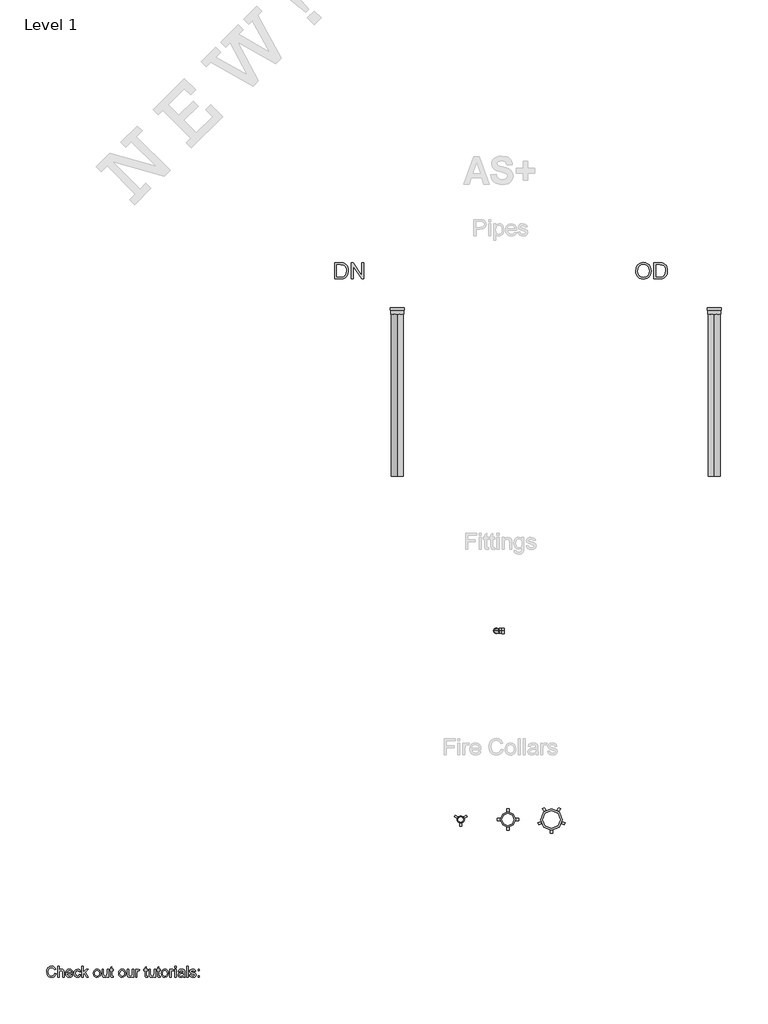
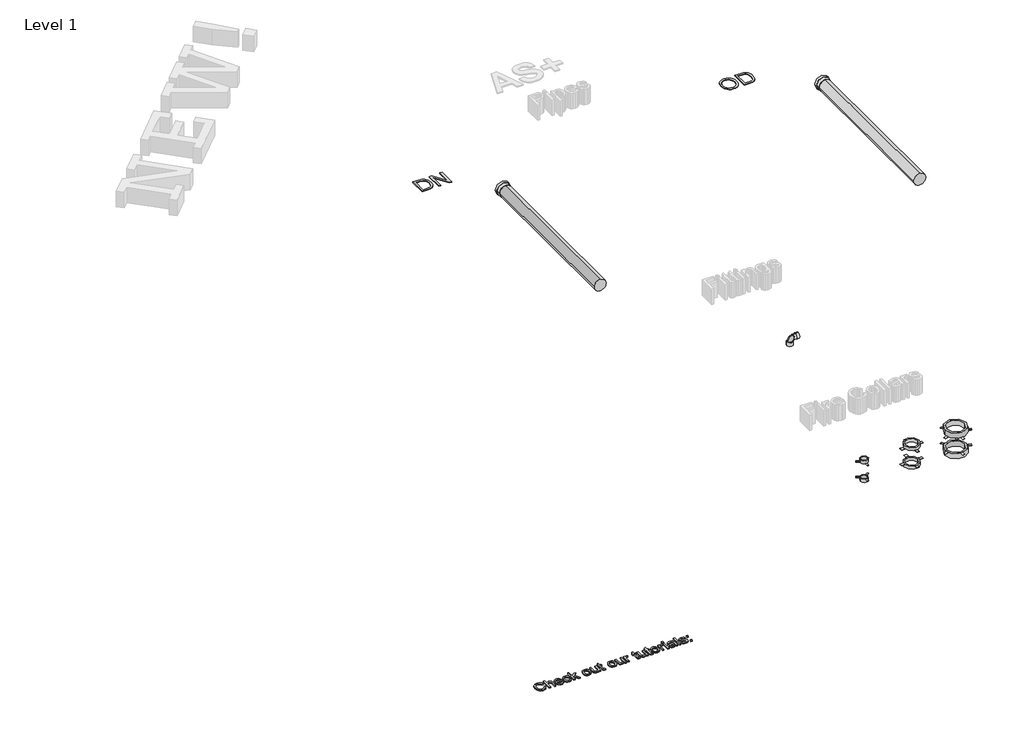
# One storey, part 1 of 2: 7 proxies, 4 pipe fittings, 2 pipe segments.
"""IFC4 building model written with IfcOpenShell, lengths in millimetres."""

from ifc_helpers import new_model, si_unit, point, frame, frame_2d, origin, origin_with_axes, place, context, project, spatial, polyline, circle_curve, trimmed, segment, composite_curve, outline, extrude, transform, mapped, element, save
from components import dn_110_31cb750b, dn_160_1776e4c2, dn_50_013501fe, grey_42b30d7e, z_starting_view_new_start_4_e8dffedb, socket_end_af24ac37

model = new_model("IFC4")

# Units and contexts
model_context = context("Model", 3, world=origin())
ifc_project = project(units=[si_unit("LENGTHUNIT", "METRE", prefix="MILLI")], contexts=[model_context])

# Site, building, storey
site = spatial("IfcSite", under=ifc_project)
building = spatial("IfcBuilding", under=site)
storey = spatial("IfcBuildingStorey", under=building, Name="Level 1", Elevation=0.0)

# Proxies
placement = place(None, origin())
element("IfcBuildingElementProxy", 1, Name="Arial 100", ObjectType="Arial 100", at=placement, inside=storey, context=model_context, shape_type="SweptSolid", body=[
    extrude(outline(polyline([(8962.5265501, 569.8574403), (8975.0835889, 566.6200787), (8969.2894475, 551.9875723), (8960.1966308, 541.2975347), (8948.2527287, 534.7584322), (8933.9053309, 532.5787314), (8919.3402696, 534.228069), (8907.7734465, 539.1760819), (8898.9074904, 547.2510917), (8892.44503, 558.2814201), (8887.1843175, 585.1368058), (8888.6711739, 599.7846406), (8893.1317431, 612.4336498), (8900.3330332, 622.6822291), (8910.0420521, 630.1287738), (8921.5567586, 634.6629194), (8934.175111, 636.1743013), (8947.9430947, 634.2183953), (8959.3259768, 628.3506775), (8967.968138, 618.9328984), (8973.513959, 606.3268087), (8960.9569203, 603.3347018), (8950.6562244, 618.7734829), (8933.6846017, 623.6172625), (8914.0397032, 618.2461854), (8902.9419296, 603.8252112), (8899.7413563, 585.1613313), (8903.5305408, 563.5298699), (8915.3272901, 549.7097697), (8932.6545321, 545.1357702), (8943.1361033, 546.6931373), (8951.870235, 551.3652386), (8958.4645198, 559.1030233), (8962.5265501, 569.8574403)])), origin_with_axes(), (0.0, 0.0, 1.0), 10.0),
    extrude(outline(polyline([(8990.7798874, 534.1483613), (8990.7798874, 634.6046714), (9003.3369261, 634.6046714), (9003.3369261, 597.6693191), (9013.1287186, 606.5352752), (9025.1891166, 609.4905939), (9039.2912598, 606.2654951), (9047.8506475, 597.350488), (9050.4258215, 580.8448492), (9050.4258215, 534.1483613), (9037.8687827, 534.1483613), (9037.8687827, 579.5449995), (9033.8711317, 592.7887513), (9022.5403663, 596.9335551), (9012.2519331, 594.1376519), (9005.3848026, 586.5592828), (9003.3369261, 573.3400565), (9003.3369261, 534.1483613), (8990.7798874, 534.1483613)])), origin_with_axes(), (0.0, 0.0, 1.0), 10.0),
    extrude(outline(polyline([(9119.3423819, 556.1231791), (9131.654166, 554.5535493), (9127.2181223, 545.2767916), (9120.1394596, 538.342216), (9110.5775934, 534.0196026), (9098.6919393, 532.5787314), (9083.9582654, 535.0650006), (9072.6213685, 542.523808), (9065.3924873, 554.4707758), (9062.9828603, 570.421526), (9065.4170128, 586.9087707), (9072.7194704, 599.2389489), (9083.9030831, 606.9276826), (9097.9807007, 609.4905939), (9111.6199257, 606.933814), (9122.5184298, 599.2634744), (9129.6645376, 586.9578217), (9132.0465735, 570.4951024), (9131.9729971, 567.110588), (9075.539899, 567.110588), (9077.7134685, 557.7112031), (9082.7626489, 550.8011529), (9090.0497781, 546.5521159), (9098.9371939, 545.1357702), (9111.248978, 547.7599951), (9119.3423819, 556.1231791)]), holes=[polyline([(9075.539899, 579.6676268), (9119.4895347, 579.6676268), (9114.4618141, 591.0474432), (9107.1409624, 595.4620271), (9097.9316498, 596.9335551), (9082.4683433, 592.2369283), (9077.6031039, 586.7462895), (9075.539899, 579.6676268)])]), origin_with_axes(), (0.0, 0.0, 1.0), 10.0),
    extrude(outline(polyline([(9191.6925077, 560.8320686), (9204.2495464, 559.2624388), (9200.7485361, 548.0941546), (9194.1695798, 539.6543285), (9185.1319454, 534.3476307), (9174.2549011, 532.5787314), (9160.897719, 535.0466065), (9150.452936, 542.4502316), (9143.7114984, 554.4646444), (9141.4643526, 570.7648825), (9145.3025881, 591.6237916), (9157.0012355, 605.026959), (9174.0832228, 609.4905939), (9184.6935527, 607.9577522), (9193.1762984, 603.3592273), (9199.2616797, 595.9402737), (9202.6799166, 585.9461462), (9190.1228778, 584.3765163), (9184.2980795, 593.7820327), (9174.1813247, 596.9335551), (9166.066461, 595.3823194), (9159.6254604, 590.7286121), (9155.4224086, 582.7210474), (9154.0213913, 571.108239), (9155.3917518, 559.3390809), (9159.5028331, 551.303925), (9165.8273377, 546.6778089), (9173.8379682, 545.1357702), (9185.6715057, 548.9862684), (9191.6925077, 560.8320686)])), origin_with_axes(), (0.0, 0.0, 1.0), 10.0),
    extrude(outline(polyline([(9215.2369553, 534.1483613), (9215.2369553, 634.6046714), (9227.7939941, 634.6046714), (9227.7939941, 580.62412), (9255.9492295, 607.920964), (9273.3132596, 607.920964), (9244.8146678, 580.2807635), (9274.8828895, 534.1483613), (9260.2166606, 534.1483613), (9235.8138216, 571.5496974), (9227.7939941, 563.7751246), (9227.7939941, 534.1483613), (9215.2369553, 534.1483613)])), origin_with_axes(), (0.0, 0.0, 1.0), 10.0),
    extrude(outline(polyline([(9321.9717849, 571.0346626), (9324.6879803, 588.8217571), (9332.8365665, 601.3236136), (9342.9042704, 607.4488488), (9354.9585371, 609.4905939), (9368.1501723, 607.0043247), (9378.6869258, 599.5455173), (9385.5939103, 587.7027827), (9387.8962384, 572.0647322), (9383.825011, 549.7220324), (9371.966948, 537.0791545), (9354.9585371, 532.5787314), (9341.6074864, 535.0558035), (9331.0829956, 542.4870198), (9324.2495876, 554.5780747), (9321.9717849, 571.0346626)]), holes=[polyline([(9334.5288236, 571.0591881), (9335.9819575, 559.6947001), (9340.3413592, 551.5982306), (9346.9019214, 546.7513853), (9354.9585371, 545.1357702), (9362.9783646, 546.7605823), (9369.5266641, 551.6350188), (9373.8860658, 559.8387873), (9375.3391996, 571.4515956), (9373.8768687, 582.4849897), (9369.4898759, 590.4710947), (9362.9323794, 595.31794), (9354.9585371, 596.9335551), (9346.9019214, 595.3240714), (9340.3413592, 590.4956202), (9335.9819575, 582.4175447), (9334.5288236, 571.0591881)])]), origin_with_axes(), (0.0, 0.0, 1.0), 10.0),
    extrude(outline(polyline([(9449.1118024, 534.1483613), (9449.1118024, 546.8280274), (9439.2770904, 536.1410554), (9426.4502715, 532.5787314), (9414.6412595, 535.080329), (9406.4988046, 541.3588484), (9402.758671, 550.6049492), (9402.022907, 562.2790712), (9402.022907, 607.920964), (9414.5799458, 607.920964), (9414.5799458, 568.1897086), (9415.3402353, 555.3874151), (9420.3066422, 547.8703597), (9429.6631076, 545.1357702), (9440.1477445, 547.9316734), (9447.0761887, 555.5468307), (9449.1118024, 569.5386092), (9449.1118024, 607.920964), (9461.6688412, 607.920964), (9461.6688412, 534.1483613), (9449.1118024, 534.1483613)])), origin_with_axes(), (0.0, 0.0, 1.0), 10.0),
    extrude(outline(polyline([(9505.6184769, 544.6207354), (9507.1881067, 533.7804793), (9497.7948531, 532.5787314), (9487.273428, 534.6633961), (9482.0249782, 540.1325751), (9480.5043993, 554.381871), (9480.5043993, 595.3639253), (9471.0866203, 595.3639253), (9471.0866203, 607.920964), (9480.5043993, 607.920964), (9480.5043993, 625.8490799), (9493.0614381, 633.2312453), (9493.0614381, 607.920964), (9505.6184769, 607.920964), (9505.6184769, 595.3639253), (9493.0614381, 595.3639253), (9493.0614381, 554.749753), (9493.7236257, 548.2750299), (9495.869604, 545.9818988), (9500.1492979, 545.1357702), (9505.6184769, 544.6207354)])), origin_with_axes(), (0.0, 0.0, 1.0), 10.0),
    extrude(outline(polyline([(9554.2770021, 571.0346626), (9556.9931975, 588.8217571), (9565.1417837, 601.3236136), (9575.2094876, 607.4488488), (9587.2637543, 609.4905939), (9600.4553895, 607.0043247), (9610.992143, 599.5455173), (9617.8991275, 587.7027827), (9620.2014556, 572.0647322), (9616.1302282, 549.7220324), (9604.2721652, 537.0791545), (9587.2637543, 532.5787314), (9573.9127036, 535.0558035), (9563.3882128, 542.4870198), (9556.5548048, 554.5780747), (9554.2770021, 571.0346626)]), holes=[polyline([(9566.8340409, 571.0591881), (9568.2871747, 559.6947001), (9572.6465764, 551.5982306), (9579.2071386, 546.7513853), (9587.2637543, 545.1357702), (9595.2835818, 546.7605823), (9601.8318813, 551.6350188), (9606.191283, 559.8387873), (9607.6444169, 571.4515956), (9606.1820859, 582.4849897), (9601.7950931, 590.4710947), (9595.2375966, 595.31794), (9587.2637543, 596.9335551), (9579.2071386, 595.3240714), (9572.6465764, 590.4956202), (9568.2871747, 582.4175447), (9566.8340409, 571.0591881)])]), origin_with_axes(), (0.0, 0.0, 1.0), 10.0),
    extrude(outline(polyline([(9681.4170196, 534.1483613), (9681.4170196, 546.8280274), (9671.5823076, 536.1410554), (9658.7554887, 532.5787314), (9646.9464767, 535.080329), (9638.8040219, 541.3588484), (9635.0638882, 550.6049492), (9634.3281242, 562.2790712), (9634.3281242, 607.920964), (9646.885163, 607.920964), (9646.885163, 568.1897086), (9647.6454525, 555.3874151), (9652.6118594, 547.8703597), (9661.9683248, 545.1357702), (9672.4529617, 547.9316734), (9679.3814059, 555.5468307), (9681.4170196, 569.5386092), (9681.4170196, 607.920964), (9693.9740584, 607.920964), (9693.9740584, 534.1483613), (9681.4170196, 534.1483613)])), origin_with_axes(), (0.0, 0.0, 1.0), 10.0),
    extrude(outline(polyline([(9711.2399867, 534.1483613), (9711.2399867, 607.920964), (9722.2273956, 607.920964), (9722.2273956, 597.0071315), (9730.0264939, 607.0625727), (9737.8746432, 609.4905939), (9750.4807329, 605.6155702), (9746.2868781, 594.3583811), (9737.4577102, 596.9335551), (9730.3575877, 594.456483), (9725.8326392, 587.5893524), (9723.7970255, 572.9231236), (9723.7970255, 534.1483613), (9711.2399867, 534.1483613)])), origin_with_axes(), (0.0, 0.0, 1.0), 10.0),
    extrude(outline(polyline([(9824.2533356, 544.6207354), (9825.8229655, 533.7804793), (9816.4297119, 532.5787314), (9805.9082868, 534.6633961), (9800.659837, 540.1325751), (9799.1392581, 554.381871), (9799.1392581, 595.3639253), (9789.721479, 595.3639253), (9789.721479, 607.920964), (9799.1392581, 607.920964), (9799.1392581, 625.8490799), (9811.6962969, 633.2312453), (9811.6962969, 607.920964), (9824.2533356, 607.920964), (9824.2533356, 595.3639253), (9811.6962969, 595.3639253), (9811.6962969, 554.749753), (9812.3584844, 548.2750299), (9814.5044628, 545.9818988), (9818.7841566, 545.1357702), (9824.2533356, 544.6207354)])), origin_with_axes(), (0.0, 0.0, 1.0), 10.0),
    extrude(outline(polyline([(9883.8992698, 534.1483613), (9883.8992698, 546.8280274), (9874.0645578, 536.1410554), (9861.2377389, 532.5787314), (9849.4287268, 535.080329), (9841.286272, 541.3588484), (9837.5461384, 550.6049492), (9836.8103744, 562.2790712), (9836.8103744, 607.920964), (9849.3674132, 607.920964), (9849.3674132, 568.1897086), (9850.1277026, 555.3874151), (9855.0941096, 547.8703597), (9864.450575, 545.1357702), (9874.9352118, 547.9316734), (9881.8636561, 555.5468307), (9883.8992698, 569.5386092), (9883.8992698, 607.920964), (9896.4563085, 607.920964), (9896.4563085, 534.1483613), (9883.8992698, 534.1483613)])), origin_with_axes(), (0.0, 0.0, 1.0), 10.0),
    extrude(outline(polyline([(9940.4059442, 544.6207354), (9941.9755741, 533.7804793), (9932.5823205, 532.5787314), (9922.0608954, 534.6633961), (9916.8124456, 540.1325751), (9915.2918667, 554.381871), (9915.2918667, 595.3639253), (9905.8740876, 595.3639253), (9905.8740876, 607.920964), (9915.2918667, 607.920964), (9915.2918667, 625.8490799), (9927.8489055, 633.2312453), (9927.8489055, 607.920964), (9940.4059442, 607.920964), (9940.4059442, 595.3639253), (9927.8489055, 595.3639253), (9927.8489055, 554.749753), (9928.5110931, 548.2750299), (9930.6570714, 545.9818988), (9934.9367652, 545.1357702), (9940.4059442, 544.6207354)])), origin_with_axes(), (0.0, 0.0, 1.0), 10.0),
    extrude(outline(polyline([(9949.8237233, 571.0346626), (9952.5399187, 588.8217571), (9960.6885049, 601.3236136), (9970.7562088, 607.4488488), (9982.8104755, 609.4905939), (9996.0021108, 607.0043247), (10006.5388642, 599.5455173), (10013.4458487, 587.7027827), (10015.7481768, 572.0647322), (10011.6769494, 549.7220324), (9999.8188865, 537.0791545), (9982.8104755, 532.5787314), (9969.4594248, 535.0558035), (9958.9349341, 542.4870198), (9952.101526, 554.5780747), (9949.8237233, 571.0346626)]), holes=[polyline([(9962.3807621, 571.0591881), (9963.833896, 559.6947001), (9968.1932976, 551.5982306), (9974.7538599, 546.7513853), (9982.8104755, 545.1357702), (9990.830303, 546.7605823), (9997.3786026, 551.6350188), (10001.7380042, 559.8387873), (10003.1911381, 571.4515956), (10001.7288071, 582.4849897), (9997.3418144, 590.4710947), (9990.7843178, 595.31794), (9982.8104755, 596.9335551), (9974.7538599, 595.3240714), (9968.1932976, 590.4956202), (9963.833896, 582.4175447), (9962.3807621, 571.0591881)])]), origin_with_axes(), (0.0, 0.0, 1.0), 10.0),
    extrude(outline(polyline([(10029.8748455, 534.1483613), (10029.8748455, 607.920964), (10040.8622544, 607.920964), (10040.8622544, 597.0071315), (10048.6613527, 607.0625727), (10056.5095019, 609.4905939), (10069.1155916, 605.6155702), (10064.9217369, 594.3583811), (10056.092569, 596.9335551), (10048.9924465, 594.456483), (10044.4674979, 587.5893524), (10042.4318842, 572.9231236), (10042.4318842, 534.1483613), (10029.8748455, 534.1483613)])), origin_with_axes(), (0.0, 0.0, 1.0), 10.0),
    extrude(outline(polyline([(10076.9637408, 622.0476326), (10076.9637408, 634.6046714), (10089.5207796, 634.6046714), (10089.5207796, 622.0476326), (10076.9637408, 622.0476326)])), origin_with_axes(), (0.0, 0.0, 1.0), 10.0),
    extrude(outline(polyline([(10076.9637408, 534.1483613), (10076.9637408, 607.920964), (10089.5207796, 607.920964), (10089.5207796, 534.1483613), (10076.9637408, 534.1483613)])), origin_with_axes(), (0.0, 0.0, 1.0), 10.0),
    extrude(outline(polyline([(10155.4452331, 543.5661403), (10143.2683391, 535.0558035), (10129.8161208, 532.5787314), (10119.3222869, 534.0686535), (10111.5814366, 538.5384197), (10106.8081677, 545.3258426), (10105.2170781, 553.7687343), (10107.6205738, 563.7015482), (10113.9358814, 570.9120353), (10122.728261, 575.0323137), (10133.5930426, 576.9207746), (10155.3716567, 581.2372566), (10155.4452331, 584.0331598), (10151.9871424, 593.3037861), (10138.1057284, 596.9335551), (10125.4015369, 594.5177967), (10119.3437467, 585.9461462), (10106.7867079, 587.515776), (10112.2190987, 599.7785092), (10123.1574567, 606.9644708), (10139.7244092, 609.4905939), (10154.9424611, 607.2587764), (10163.538637, 601.6547074), (10167.3891353, 593.1321078), (10168.0022719, 582.1446989), (10168.0022719, 566.5219768), (10168.639934, 544.7065745), (10171.1415316, 534.1483613), (10158.5844928, 534.1483613), (10155.4452331, 543.5661403)]), holes=[polyline([(10155.4452331, 568.6802179), (10135.1871979, 564.8297197), (10124.38373, 562.794106), (10119.4908995, 559.483168), (10117.7741168, 554.6516511), (10121.5142505, 547.858097), (10132.4893966, 545.1357702), (10145.1935882, 548.1401398), (10153.385094, 555.4119406), (10155.3716567, 565.1240253), (10155.4452331, 568.6802179)])]), origin_with_axes(), (0.0, 0.0, 1.0), 10.0),
    extrude(outline(polyline([(10185.2682002, 534.1483613), (10185.2682002, 634.6046714), (10197.825239, 634.6046714), (10197.825239, 534.1483613), (10185.2682002, 534.1483613)])), origin_with_axes(), (0.0, 0.0, 1.0), 10.0),
    extrude(outline(polyline([(10211.9519076, 556.1231791), (10224.5089464, 557.692809), (10230.3214819, 548.3731317), (10243.6388101, 545.1357702), (10256.4411036, 548.1033516), (10260.6104328, 555.0685841), (10256.4165781, 560.7094413), (10243.4916573, 564.2901594), (10224.5825228, 570.4337887), (10216.3297034, 577.6074876), (10213.5215375, 587.7365052), (10215.7778804, 597.0929706), (10221.9337724, 604.2421441), (10229.9168117, 607.9577522), (10240.7202796, 609.4905939), (10255.9996452, 607.0257845), (10265.7117298, 600.3548577), (10270.0282119, 589.0854059), (10257.4711731, 587.515776), (10252.7500209, 594.4442203), (10241.7012983, 596.9335551), (10229.6838198, 594.5545849), (10226.0785762, 589.0118295), (10227.5746297, 585.357535), (10232.2589937, 582.5861573), (10243.0747244, 579.9128815), (10261.5056124, 574.0022441), (10270.0650001, 567.3067918), (10273.1674716, 556.3929592), (10269.5254399, 544.3754807), (10259.0162775, 535.6566774), (10243.4671319, 532.5787314), (10230.8058599, 534.0625221), (10221.5658904, 538.5138943), (10215.3977356, 545.8837969), (10211.9519076, 556.1231791)])), origin_with_axes(), (0.0, 0.0, 1.0), 10.0),
    extrude(outline(polyline([(10290.4333999, 534.1483613), (10290.4333999, 546.7054), (10302.9904387, 546.7054), (10302.9904387, 534.1483613), (10290.4333999, 534.1483613)])), origin_with_axes(), (0.0, 0.0, 1.0), 10.0),
    extrude(outline(polyline([(10290.4333999, 595.3639253), (10290.4333999, 607.920964), (10302.9904387, 607.920964), (10302.9904387, 595.3639253), (10290.4333999, 595.3639253)])), origin_with_axes(), (0.0, 0.0, 1.0), 10.0),
])
dn_110_shape = dn_110_31cb750b(model_context)
element("IfcBuildingElementProxy", 2, Name="Wavin_SpecialtyEquipment_AsPlusFireCollarForCeilings : DN 110", ObjectType="Wavin_SpecialtyEquipment_AsPlusFireCollarForCeilings : DN 110", at=placement, inside=storey, context=model_context, shape_type="MappedRepresentation", body=[
    mapped(dn_110_shape, transform((13160.5811945, 1995.4933406, 10.0), x_axis=(1.0, 0.0, 0.0), y_axis=(0.0, 1.0, 0.0), z_axis=(0.0, 0.0, 1.0))),
])
element("IfcBuildingElementProxy", 3, Name="Wavin_SpecialtyEquipment_AsPlusFireCollarForCeilings : DN 110", ObjectType="Wavin_SpecialtyEquipment_AsPlusFireCollarForCeilings : DN 110", at=placement, inside=storey, context=model_context, shape_type="MappedRepresentation", body=[
    mapped(dn_110_shape, transform((13160.5811945, 1995.4933406, -140.0), x_axis=(-1.0, 0.0, 0.0), y_axis=(0.0, 1.0, 0.0), z_axis=(0.0, 0.0, -1.0))),
])
dn_160_shape = dn_160_1776e4c2(model_context)
element("IfcBuildingElementProxy", 4, Name="Wavin_SpecialtyEquipment_AsPlusFireCollarForCeilings : DN 160", ObjectType="Wavin_SpecialtyEquipment_AsPlusFireCollarForCeilings : DN 160", at=placement, inside=storey, context=model_context, shape_type="MappedRepresentation", body=[
    mapped(dn_160_shape, transform((13564.2930295, 1995.4933406, 10.0), x_axis=(1.0, 0.0, 0.0), y_axis=(0.0, 1.0, 0.0), z_axis=(0.0, 0.0, 1.0))),
])
element("IfcBuildingElementProxy", 5, Name="Wavin_SpecialtyEquipment_AsPlusFireCollarForCeilings : DN 160", ObjectType="Wavin_SpecialtyEquipment_AsPlusFireCollarForCeilings : DN 160", at=placement, inside=storey, context=model_context, shape_type="MappedRepresentation", body=[
    mapped(dn_160_shape, transform((13564.2930295, 1995.4933406, -140.0), x_axis=(-1.0, 0.0, 0.0), y_axis=(0.0, 1.0, 0.0), z_axis=(0.0, 0.0, -1.0))),
])
dn_50_shape = dn_50_013501fe(model_context)
element("IfcBuildingElementProxy", 6, Name="Wavin_SpecialtyEquipment_AsPlusFireCollarForCeilings : DN 50", ObjectType="Wavin_SpecialtyEquipment_AsPlusFireCollarForCeilings : DN 50", at=placement, inside=storey, context=model_context, shape_type="MappedRepresentation", body=[
    mapped(dn_50_shape, transform((12723.6441794, 1995.4933406, 10.0), x_axis=(1.0, 0.0, 0.0), y_axis=(0.0, 1.0, 0.0), z_axis=(0.0, 0.0, 1.0))),
])
element("IfcBuildingElementProxy", 7, Name="Wavin_SpecialtyEquipment_AsPlusFireCollarForCeilings : DN 50", ObjectType="Wavin_SpecialtyEquipment_AsPlusFireCollarForCeilings : DN 50", at=placement, inside=storey, context=model_context, shape_type="MappedRepresentation", body=[
    mapped(dn_50_shape, transform((12723.6441794, 1995.4933406, -140.0), x_axis=(-1.0, 0.0, 0.0), y_axis=(0.0, 1.0, 0.0), z_axis=(0.0, 0.0, -1.0))),
])

# Pipe fittings
grey_shape = grey_42b30d7e(model_context)
element("IfcPipeFitting", 8, ObjectType="Wavin_PipeFitting_AsPlusBendForLinkManifold : Grey", at=placement, inside=storey, context=model_context, shape_type="MappedRepresentation", body=[
    mapped(grey_shape, transform((13051.8063324, 3742.9830177, 35.7), x_axis=(0.0, 0.0, 1.0), y_axis=(1.0, 0.0, 0.0), z_axis=(0.0, 1.0, 0.0))),
])
z_starting_view_new_start_4_shape = z_starting_view_new_start_4_e8dffedb(model_context)
element("IfcPipeFitting", 9, ObjectType="Z_Starting_View_New : Start_4", at=placement, inside=storey, context=model_context, shape_type="MappedRepresentation", body=[
    mapped(z_starting_view_new_start_4_shape, transform((-10942.9337976, -443.7382315, 0.0), x_axis=(1.0, 0.0, 0.0), y_axis=(0.0, 1.0, 0.0), z_axis=(0.0, 0.0, 1.0))),
])
socket_end_shape = socket_end_af24ac37(model_context)
element("IfcPipeFitting", 10, ObjectType="Wavin_PipeFitting_AsPlusPipeSocket : socket end", at=placement, inside=storey, context=model_context, shape_type="MappedRepresentation", body=[
    mapped(socket_end_shape, transform((12136.1981995, 6677.5474987, 0.0), x_axis=(0.0, -1.0, 0.0), y_axis=(1.0, 0.0, 0.0), z_axis=(0.0, 0.0, 1.0))),
])
element("IfcPipeFitting", 11, ObjectType="Wavin_PipeFitting_AsPlusPipeSocket : socket end", at=placement, inside=storey, context=model_context, shape_type="MappedRepresentation", body=[
    mapped(socket_end_shape, transform((15072.0091987, 6677.5474987, 0.0), x_axis=(0.0, -1.0, 0.0), y_axis=(1.0, 0.0, 0.0), z_axis=(0.0, 0.0, 1.0))),
])

# Pipe segments
element("IfcPipeSegment", 12, ObjectType="Wavin_Pipe_AsPlusWithSocketDn", at=placement, inside=storey, context=model_context, shape_type="SweptSolid", body=[
    extrude(outline(composite_curve([segment(trimmed(circle_curve(frame_2d((0.0, 12136.1981995)), 55.0), [point((0.0, 12081.1981995))], [point((-55.0, 12136.1981995))], False, "CARTESIAN"), True, "CONTINUOUS"), segment(trimmed(circle_curve(frame_2d((0.0, 12136.1981995)), 55.0), [point((-55.0, 12136.1981995))], [point((0.0, 12191.1981995))], False, "CARTESIAN"), True, "CONTINUOUS"), segment(trimmed(circle_curve(frame_2d((0.0, 12136.1981995)), 55.0), [point((0.0, 12191.1981995))], [point((55.0, 12136.1981995))], False, "CARTESIAN"), True, "CONTINUOUS"), segment(trimmed(circle_curve(frame_2d((0.0, 12136.1981995)), 55.0), [point((55.0, 12136.1981995))], [point((0.0, 12081.1981995))], False, "CARTESIAN"), True, "CONTINUOUS")], self_intersect=False)), frame((0.0, 5177.0474987, 0.0), z_axis=(0.0, 1.0, 0.0), x_axis=(0.0, 0.0, 1.0)), (0.0, 0.0, 1.0), 1500.0),
])
element("IfcPipeSegment", 13, ObjectType="Wavin_Pipe_AsPlusWithSocketOd", at=placement, inside=storey, context=model_context, shape_type="SweptSolid", body=[
    extrude(outline(composite_curve([segment(trimmed(circle_curve(frame_2d((0.0, 15072.0091987)), 55.0), [point((0.0, 15127.0091987))], [point((55.0, 15072.0091987))], False, "CARTESIAN"), True, "CONTINUOUS"), segment(trimmed(circle_curve(frame_2d((0.0, 15072.0091987)), 55.0), [point((55.0, 15072.0091987))], [point((0.0, 15017.0091987))], False, "CARTESIAN"), True, "CONTINUOUS"), segment(trimmed(circle_curve(frame_2d((0.0, 15072.0091987)), 55.0), [point((0.0, 15017.0091987))], [point((-55.0, 15072.0091987))], False, "CARTESIAN"), True, "CONTINUOUS"), segment(trimmed(circle_curve(frame_2d((0.0, 15072.0091987)), 55.0), [point((-55.0, 15072.0091987))], [point((0.0, 15127.0091987))], False, "CARTESIAN"), True, "CONTINUOUS")], self_intersect=False)), frame((0.0, 5177.0474987, 0.0), z_axis=(0.0, 1.0, 0.0), x_axis=(0.0, 0.0, 1.0)), (0.0, 0.0, 1.0), 1500.0),
])

save(model, "model.ifc")
